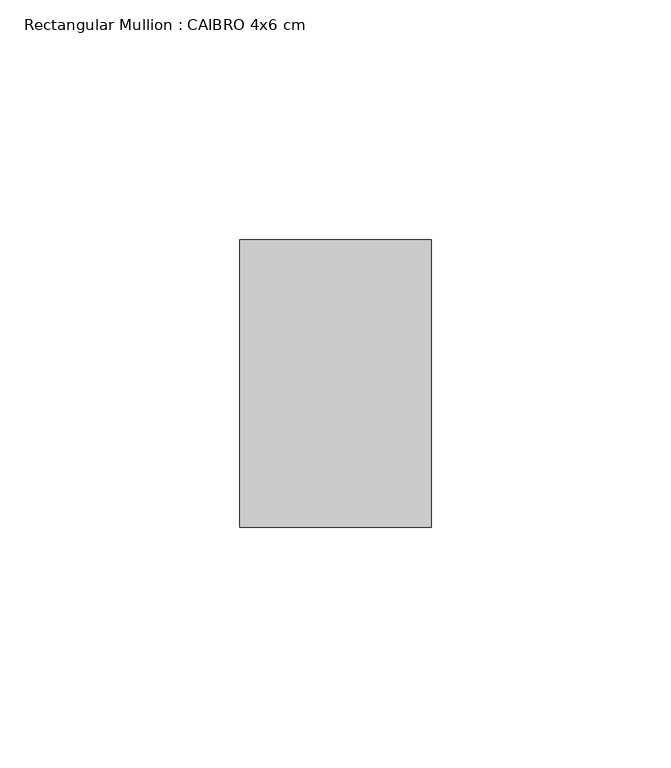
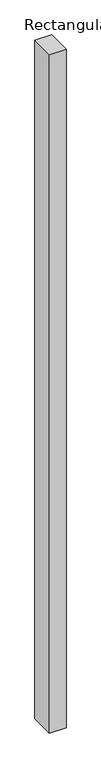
"""IFC4 building model written with IfcOpenShell, lengths in millimetres: member geometry, Rectangular Mullion : CAIBRO 4x6 cm."""

from ifc_helpers import new_model, si_unit, frame, origin, place, context, project, spatial, polyline, outline, extrude, source, transform, mapped, element, save


def rectangular_mullion_caibro_4x6_cm_25b96661(model_context):
    return source(origin(), model_context, "Body", "SweptSolid", [
        extrude(outline(polyline([(0.0, 60.0), (0.0, 0.0), (-40.0, 0.0), (-40.0, 60.0), (0.0, 60.0)])), frame((0.0, 0.0, -1719.0186154), z_axis=(0.0, 0.0, 1.0), x_axis=(1.0, 0.0, 0.0)), (0.0, 0.0, 1.0), 1719.0186154),
    ])


if __name__ == "__main__":
    model = new_model("IFC4")
    model_context = context("Model", 3, world=origin())
    ifc_project = project(units=[si_unit("LENGTHUNIT", "METRE", prefix="MILLI")], contexts=[model_context])
    site = spatial("IfcSite", under=ifc_project)
    building = spatial("IfcBuilding", under=site)
    placement = place(None, origin())
    rectangular_mullion_caibro_4x6_cm_shape = rectangular_mullion_caibro_4x6_cm_25b96661(model_context)
    element("IfcMember", 1, ObjectType="Rectangular Mullion : CAIBRO 4x6 cm", at=placement, inside=building, context=model_context, shape_type="MappedRepresentation", body=[
        mapped(rectangular_mullion_caibro_4x6_cm_shape, transform((0.0, 0.0, 0.0), x_axis=(1.0, 0.0, 0.0), y_axis=(0.0, 1.0, 0.0), z_axis=(0.0, 0.0, 1.0))),
    ])
    save(model, "model.ifc")
